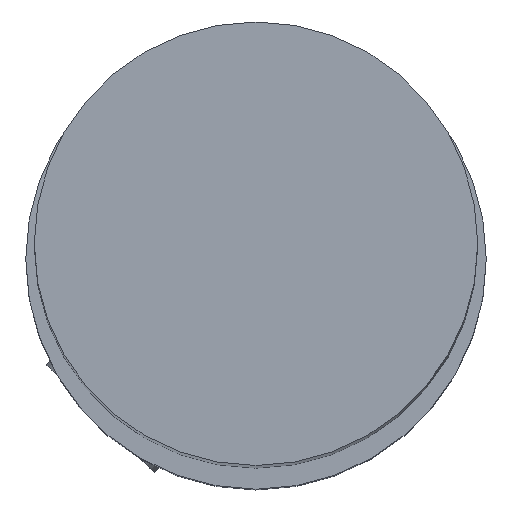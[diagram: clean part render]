
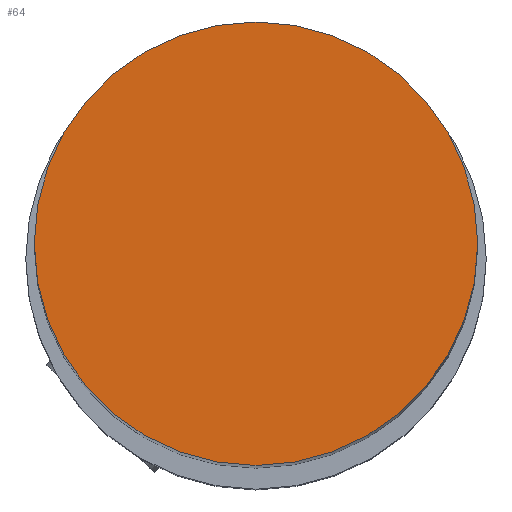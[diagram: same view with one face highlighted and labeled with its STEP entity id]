
A CAD part, top view. The second image highlights one B-rep face of the part: STEP entity #64.
In plain terms, the highlighted planar face has unit normal (0, 0, 1).
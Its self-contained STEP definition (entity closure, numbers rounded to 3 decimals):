
#28 = PLANE ( 'NONE',  #684 ) ;
#40 = CARTESIAN_POINT ( 'NONE',  ( -13.137, 0.001, -296.89 ) ) ;
#61 = CARTESIAN_POINT ( 'NONE',  ( 12.863, 0.001, -296.89 ) ) ;
#64 = ADVANCED_FACE ( 'NONE', ( #180 ), #28, .T. ) ;
#94 = CARTESIAN_POINT ( 'NONE',  ( -13.137, 0.001, -296.89 ) ) ;
#174 = ORIENTED_EDGE ( 'NONE', *, *, #1457, .F. ) ;
#176 = CIRCLE ( 'NONE', #1839, 13. ) ;
#180 = FACE_OUTER_BOUND ( 'NONE', #572, .T. ) ;
#572 = EDGE_LOOP ( 'NONE', ( #1664, #174 ) ) ;
#631 = DIRECTION ( 'NONE',  ( 1., 0., 0. ) ) ;
#682 = DIRECTION ( 'NONE',  ( 0., 0., 1. ) ) ;
#684 = AXIS2_PLACEMENT_3D ( 'NONE', #40, #682, #2014 ) ;
#775 = DIRECTION ( 'NONE',  ( 0., 0., -1. ) ) ;
#776 = VERTEX_POINT ( 'NONE', #94 ) ;
#828 = DIRECTION ( 'NONE',  ( 0., 0., -1. ) ) ;
#880 = CIRCLE ( 'NONE', #1172, 13. ) ;
#1132 = VERTEX_POINT ( 'NONE', #61 ) ;
#1144 = CARTESIAN_POINT ( 'NONE',  ( -0.137, 0.001, -296.89 ) ) ;
#1172 = AXIS2_PLACEMENT_3D ( 'NONE', #1144, #828, #1481 ) ;
#1457 = EDGE_CURVE ( 'NONE', #776, #1132, #880, .T. ) ;
#1481 = DIRECTION ( 'NONE',  ( 1., 0., 0. ) ) ;
#1664 = ORIENTED_EDGE ( 'NONE', *, *, #2118, .F. ) ;
#1839 = AXIS2_PLACEMENT_3D ( 'NONE', #1921, #775, #631 ) ;
#1921 = CARTESIAN_POINT ( 'NONE',  ( -0.137, 0.001, -296.89 ) ) ;
#2014 = DIRECTION ( 'NONE',  ( -1., 0., 0. ) ) ;
#2118 = EDGE_CURVE ( 'NONE', #1132, #776, #176, .T. ) ;
